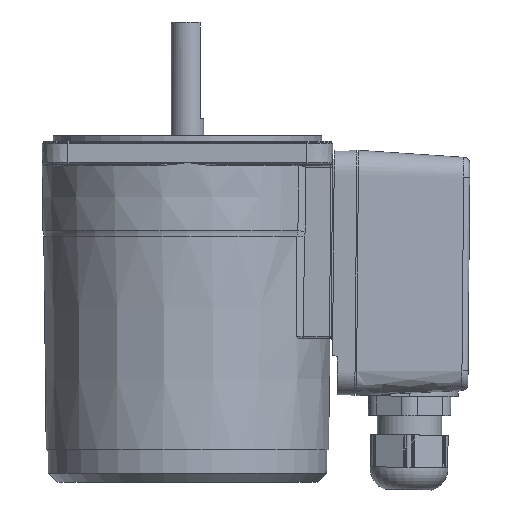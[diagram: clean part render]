
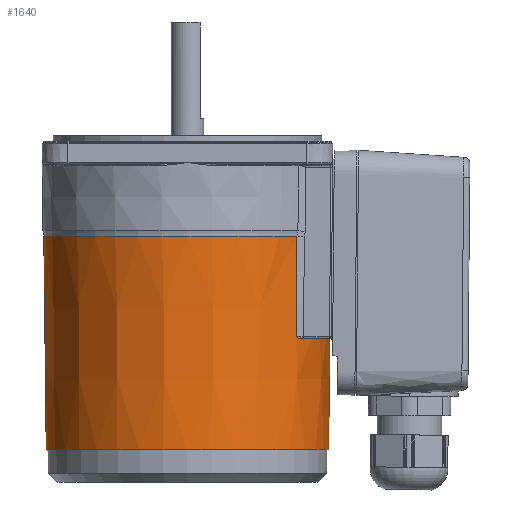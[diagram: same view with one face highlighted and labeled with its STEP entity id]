
A CAD part, left-side view. The second image highlights one B-rep face of the part: STEP entity #1640.
In plain terms, the highlighted conical face has half-angle 0.651 degrees and reference radius 44.501 mm.
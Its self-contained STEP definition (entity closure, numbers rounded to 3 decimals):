
#41 = CARTESIAN_POINT ( 'NONE',  ( -27.452, -34.567, -60.481 ) ) ;
#175 = CARTESIAN_POINT ( 'NONE',  ( 28.815, -33.882, -30.92 ) ) ;
#252 = CARTESIAN_POINT ( 'NONE',  ( -27.335, -34.66, -60.5 ) ) ;
#313 = CARTESIAN_POINT ( 'NONE',  ( -27.684, -34.383, -60.422 ) ) ;
#322 = CIRCLE ( 'NONE', #9761, 44.142 ) ;
#379 = CARTESIAN_POINT ( 'NONE',  ( -28.595, -33.69, -56.336 ) ) ;
#559 = CARTESIAN_POINT ( 'NONE',  ( -3.183, -44.032, -60.5 ) ) ;
#695 = FACE_OUTER_BOUND ( 'NONE', #11474, .T. ) ;
#819 = DIRECTION ( 'NONE',  ( -1., 0., 0. ) ) ;
#1104 = CARTESIAN_POINT ( 'NONE',  ( -28.563, -33.662, -60.006 ) ) ;
#1492 = AXIS2_PLACEMENT_3D ( 'NONE', #7453, #2905, #1828 ) ;
#1589 = CARTESIAN_POINT ( 'NONE',  ( -28.611, -33.704, -54.501 ) ) ;
#1640 = ADVANCED_FACE ( 'NONE', ( #2920, #695 ), #7086, .T. ) ;
#1650 = VERTEX_POINT ( 'NONE', #13948 ) ;
#1654 = VERTEX_POINT ( 'NONE', #1697 ) ;
#1697 = CARTESIAN_POINT ( 'NONE',  ( 3.818, -43.976, -60.5 ) ) ;
#1705 = CARTESIAN_POINT ( 'NONE',  ( -1.275, -44.128, -60.478 ) ) ;
#1738 = CARTESIAN_POINT ( 'NONE',  ( 28.134, -34.019, -60.242 ) ) ;
#1828 = DIRECTION ( 'NONE',  ( -1., 0., 0. ) ) ;
#2162 = VERTEX_POINT ( 'NONE', #2900 ) ;
#2305 = ORIENTED_EDGE ( 'NONE', *, *, #4111, .T. ) ;
#2570 = CARTESIAN_POINT ( 'NONE',  ( 0.637, -44.142, -60.472 ) ) ;
#2713 = DIRECTION ( 'NONE',  ( 1., 0., 0. ) ) ;
#2900 = CARTESIAN_POINT ( 'NONE',  ( -28.832, -33.897, -28.921 ) ) ;
#2905 = DIRECTION ( 'NONE',  ( 0., 0., -1. ) ) ;
#2920 = FACE_BOUND ( 'NONE', #13248, .T. ) ;
#3313 = CARTESIAN_POINT ( 'NONE',  ( 27.215, -34.754, -60.5 ) ) ;
#3317 = CARTESIAN_POINT ( 'NONE',  ( 28.636, -33.725, -51.644 ) ) ;
#3330 = CARTESIAN_POINT ( 'NONE',  ( -28.134, -34.019, -60.241 ) ) ;
#3654 = CARTESIAN_POINT ( 'NONE',  ( 3.183, -44.032, -60.5 ) ) ;
#3725 = CARTESIAN_POINT ( 'NONE',  ( -2.547, -44.073, -60.492 ) ) ;
#3815 = DIRECTION ( 'NONE',  ( -1., 0., 0. ) ) ;
#3831 = CARTESIAN_POINT ( 'NONE',  ( -28.832, -33.897, -28.921 ) ) ;
#3833 = CARTESIAN_POINT ( 'NONE',  ( 27.452, -34.567, -60.481 ) ) ;
#4091 = ORIENTED_EDGE ( 'NONE', *, *, #9949, .T. ) ;
#4111 = EDGE_CURVE ( 'NONE', #2162, #8171, #6931, .T. ) ;
#4389 = B_SPLINE_CURVE_WITH_KNOTS ( 'NONE', 3,
 ( #9030, #252, #41, #313, #10064, #3330, #7729, #13515 ),
 .UNSPECIFIED., .F., .F.,
 ( 4, 2, 2, 4 ),
 ( 0., 0., 0.001, 0.002 ),
 .UNSPECIFIED. ) ;
#4442 = ORIENTED_EDGE ( 'NONE', *, *, #10882, .T. ) ;
#4555 = CARTESIAN_POINT ( 'NONE',  ( 28.78, -33.852, -34.92 ) ) ;
#4598 = CARTESIAN_POINT ( 'NONE',  ( -27.215, -34.754, -60.5 ) ) ;
#4712 = EDGE_CURVE ( 'NONE', #1654, #8620, #5642, .T. ) ;
#4769 = CARTESIAN_POINT ( 'NONE',  ( -28.758, -33.833, -37.447 ) ) ;
#4992 = CARTESIAN_POINT ( 'NONE',  ( 28.35, -33.842, -60.124 ) ) ;
#5642 = B_SPLINE_CURVE_WITH_KNOTS ( 'NONE', 3,
 ( #8344, #3654, #5990, #6127, #2570, #11603, #1705, #3725, #559, #12634 ),
 .UNSPECIFIED., .F., .F.,
 ( 4, 2, 2, 2, 4 ),
 ( 0., 0.002, 0.004, 0.006, 0.008 ),
 .UNSPECIFIED. ) ;
#5809 = EDGE_CURVE ( 'NONE', #12020, #1654, #322, .T. ) ;
#5946 = EDGE_CURVE ( 'NONE', #11629, #11951, #4389, .T. ) ;
#5990 = CARTESIAN_POINT ( 'NONE',  ( 2.547, -44.073, -60.492 ) ) ;
#6127 = CARTESIAN_POINT ( 'NONE',  ( 1.274, -44.128, -60.478 ) ) ;
#6252 = CARTESIAN_POINT ( 'NONE',  ( 0., 0., -95. ) ) ;
#6931 = CIRCLE ( 'NONE', #9246, 44.5 ) ;
#7086 = CONICAL_SURFACE ( 'NONE', #9156, 44.5, 0.011 ) ;
#7330 = CARTESIAN_POINT ( 'NONE',  ( 0., 0., -28.921 ) ) ;
#7453 = CARTESIAN_POINT ( 'NONE',  ( 0., 0., -60.5 ) ) ;
#7530 = B_SPLINE_CURVE_WITH_KNOTS ( 'NONE', 3,
 ( #11111, #175, #7853, #4555, #13364, #3317, #10967 ),
 .UNSPECIFIED., .F., .F.,
 ( 4, 3, 4 ),
 ( 0., 0.006, 0.031 ),
 .UNSPECIFIED. ) ;
#7729 = CARTESIAN_POINT ( 'NONE',  ( -28.351, -33.841, -60.123 ) ) ;
#7853 = CARTESIAN_POINT ( 'NONE',  ( 28.797, -33.867, -32.92 ) ) ;
#8063 = B_SPLINE_CURVE_WITH_KNOTS ( 'NONE', 3,
 ( #10415, #4992, #1738, #11400, #13737, #3833, #12511, #9329 ),
 .UNSPECIFIED., .F., .F.,
 ( 4, 2, 2, 4 ),
 ( 0., 0.001, 0.001, 0.002 ),
 .UNSPECIFIED. ) ;
#8171 = VERTEX_POINT ( 'NONE', #10688 ) ;
#8344 = CARTESIAN_POINT ( 'NONE',  ( 3.818, -43.976, -60.5 ) ) ;
#8530 = CARTESIAN_POINT ( 'NONE',  ( 28.563, -33.662, -60.006 ) ) ;
#8620 = VERTEX_POINT ( 'NONE', #10637 ) ;
#8737 = VERTEX_POINT ( 'NONE', #8530 ) ;
#8781 = EDGE_CURVE ( 'NONE', #8171, #8737, #7530, .T. ) ;
#9030 = CARTESIAN_POINT ( 'NONE',  ( -27.215, -34.754, -60.5 ) ) ;
#9045 = ORIENTED_EDGE ( 'NONE', *, *, #5946, .T. ) ;
#9156 = AXIS2_PLACEMENT_3D ( 'NONE', #7330, #12914, #2713 ) ;
#9246 = AXIS2_PLACEMENT_3D ( 'NONE', #9633, #11650, #10583 ) ;
#9306 = B_SPLINE_CURVE_WITH_KNOTS ( 'NONE', 3,
 ( #11328, #11480, #379, #1589, #10413, #4769, #3831 ),
 .UNSPECIFIED., .F., .F.,
 ( 4, 3, 4 ),
 ( 0., 0.006, 0.032 ),
 .UNSPECIFIED. ) ;
#9329 = CARTESIAN_POINT ( 'NONE',  ( 27.215, -34.754, -60.5 ) ) ;
#9633 = CARTESIAN_POINT ( 'NONE',  ( 0., 0., -28.921 ) ) ;
#9761 = AXIS2_PLACEMENT_3D ( 'NONE', #11467, #10328, #3815 ) ;
#9818 = CIRCLE ( 'NONE', #12360, 43.75 ) ;
#9949 = EDGE_CURVE ( 'NONE', #11951, #2162, #9306, .T. ) ;
#10064 = CARTESIAN_POINT ( 'NONE',  ( -27.798, -34.292, -60.382 ) ) ;
#10328 = DIRECTION ( 'NONE',  ( 0., 0., -1. ) ) ;
#10413 = CARTESIAN_POINT ( 'NONE',  ( -28.684, -33.768, -45.974 ) ) ;
#10415 = CARTESIAN_POINT ( 'NONE',  ( 28.563, -33.662, -60.006 ) ) ;
#10519 = CIRCLE ( 'NONE', #1492, 44.142 ) ;
#10561 = EDGE_CURVE ( 'NONE', #8620, #11629, #10519, .T. ) ;
#10583 = DIRECTION ( 'NONE',  ( -1., 0., 0. ) ) ;
#10584 = EDGE_CURVE ( 'NONE', #1650, #1650, #9818, .T. ) ;
#10637 = CARTESIAN_POINT ( 'NONE',  ( -3.818, -43.976, -60.5 ) ) ;
#10648 = DIRECTION ( 'NONE',  ( 0., 0., -1. ) ) ;
#10688 = CARTESIAN_POINT ( 'NONE',  ( 28.832, -33.897, -28.921 ) ) ;
#10882 = EDGE_CURVE ( 'NONE', #8737, #12020, #8063, .T. ) ;
#10950 = ORIENTED_EDGE ( 'NONE', *, *, #4712, .T. ) ;
#10967 = CARTESIAN_POINT ( 'NONE',  ( 28.563, -33.662, -60.006 ) ) ;
#11111 = CARTESIAN_POINT ( 'NONE',  ( 28.832, -33.897, -28.921 ) ) ;
#11328 = CARTESIAN_POINT ( 'NONE',  ( -28.563, -33.662, -60.006 ) ) ;
#11400 = CARTESIAN_POINT ( 'NONE',  ( 27.798, -34.292, -60.382 ) ) ;
#11467 = CARTESIAN_POINT ( 'NONE',  ( 0., 0., -60.5 ) ) ;
#11474 = EDGE_LOOP ( 'NONE', ( #12397, #4442, #14275, #10950, #11788, #9045, #4091, #2305 ) ) ;
#11480 = CARTESIAN_POINT ( 'NONE',  ( -28.579, -33.676, -58.171 ) ) ;
#11603 = CARTESIAN_POINT ( 'NONE',  ( -0.637, -44.142, -60.472 ) ) ;
#11629 = VERTEX_POINT ( 'NONE', #4598 ) ;
#11650 = DIRECTION ( 'NONE',  ( 0., 0., -1. ) ) ;
#11788 = ORIENTED_EDGE ( 'NONE', *, *, #10561, .T. ) ;
#11951 = VERTEX_POINT ( 'NONE', #1104 ) ;
#12020 = VERTEX_POINT ( 'NONE', #3313 ) ;
#12360 = AXIS2_PLACEMENT_3D ( 'NONE', #6252, #10648, #819 ) ;
#12397 = ORIENTED_EDGE ( 'NONE', *, *, #8781, .T. ) ;
#12511 = CARTESIAN_POINT ( 'NONE',  ( 27.335, -34.66, -60.5 ) ) ;
#12634 = CARTESIAN_POINT ( 'NONE',  ( -3.818, -43.976, -60.5 ) ) ;
#12914 = DIRECTION ( 'NONE',  ( 0., 0., 1. ) ) ;
#13248 = EDGE_LOOP ( 'NONE', ( #13491 ) ) ;
#13364 = CARTESIAN_POINT ( 'NONE',  ( 28.708, -33.789, -43.282 ) ) ;
#13491 = ORIENTED_EDGE ( 'NONE', *, *, #10584, .F. ) ;
#13515 = CARTESIAN_POINT ( 'NONE',  ( -28.563, -33.662, -60.006 ) ) ;
#13737 = CARTESIAN_POINT ( 'NONE',  ( 27.684, -34.383, -60.422 ) ) ;
#13948 = CARTESIAN_POINT ( 'NONE',  ( -43.75, 0., -95. ) ) ;
#14275 = ORIENTED_EDGE ( 'NONE', *, *, #5809, .T. ) ;
